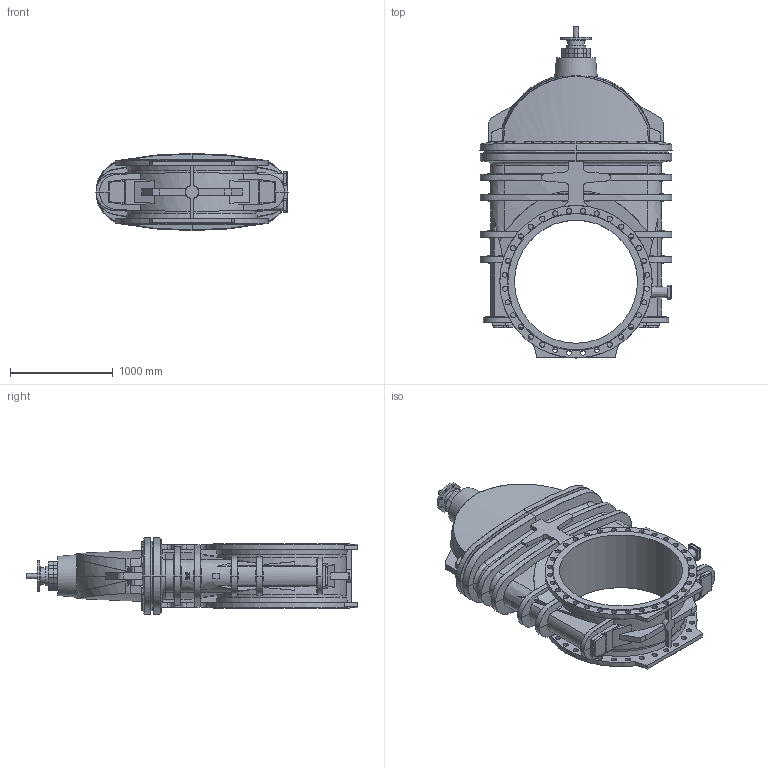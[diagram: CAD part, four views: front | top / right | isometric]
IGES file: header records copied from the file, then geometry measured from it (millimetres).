
Start section: SolidWorks IGES file using analytic representation for surfaces
Global section: file name: \\avksan2\techshare\PBM outline export from Enovia\O_06_30_DN1200_X91XXXXX_REV01.igs; native system: SolidWorks 2022; preprocessor: SolidWorks 2022; author: pbm; date: 230704.081202; units: millimetre
Bounding box: 1872.55 x 3235.6 x 752.55 mm (x, y, z)
Surface area: 18023861.9 mm2 (no closed solid volume)
Topology: 0 solids, 2 shells, 750 faces, 4193 edges, 4105 vertices
Faces by surface type: bspline 506, revolution 244
